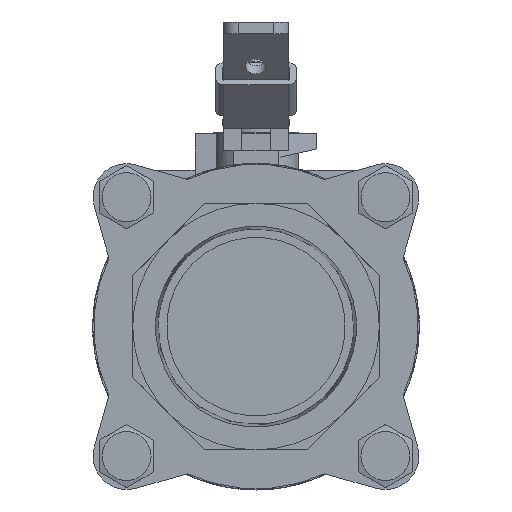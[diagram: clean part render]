
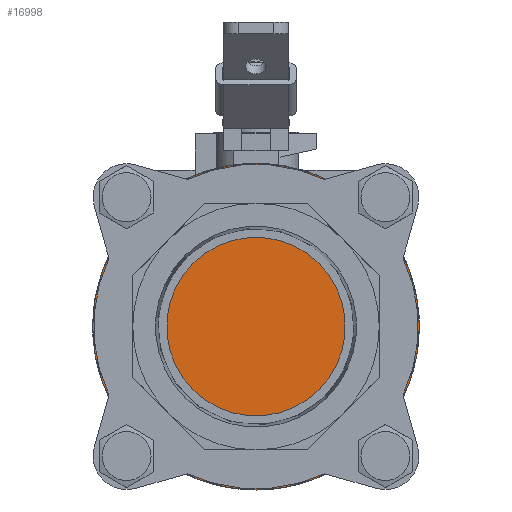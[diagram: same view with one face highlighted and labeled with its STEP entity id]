
A CAD part, left-side view. The second image highlights one B-rep face of the part: STEP entity #16998.
In plain terms, the highlighted planar face has unit normal (-1, 0, 0).
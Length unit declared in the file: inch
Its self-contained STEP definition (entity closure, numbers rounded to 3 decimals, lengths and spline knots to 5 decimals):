
#16978=CARTESIAN_POINT('',(1.83,2.754,0.0));
#16979=VERTEX_POINT('',#16978);
#16980=CARTESIAN_POINT('',(1.83,0.0,0.0));
#16981=DIRECTION('',(1.0,0.0,0.0));
#16982=DIRECTION('',(0.0,1.0,0.0));
#16983=AXIS2_PLACEMENT_3D('',#16980,#16981,#16982);
#16984=CIRCLE('',#16983,2.754);
#16985=EDGE_CURVE('',#16979,#16979,#16984,.T.);
#16990=CARTESIAN_POINT('',(1.83,0.0,0.0));
#16991=DIRECTION('',(1.0,0.0,0.0));
#16992=DIRECTION('',(0.0,0.0,-1.0));
#16993=AXIS2_PLACEMENT_3D('',#16990,#16991,#16992);
#16994=PLANE('',#16993);
#16995=ORIENTED_EDGE('',*,*,#16985,.F.);
#16996=EDGE_LOOP('',(#16995));
#16997=FACE_OUTER_BOUND('',#16996,.T.);
#16998=ADVANCED_FACE('',(#16997),#16994,.F.);
